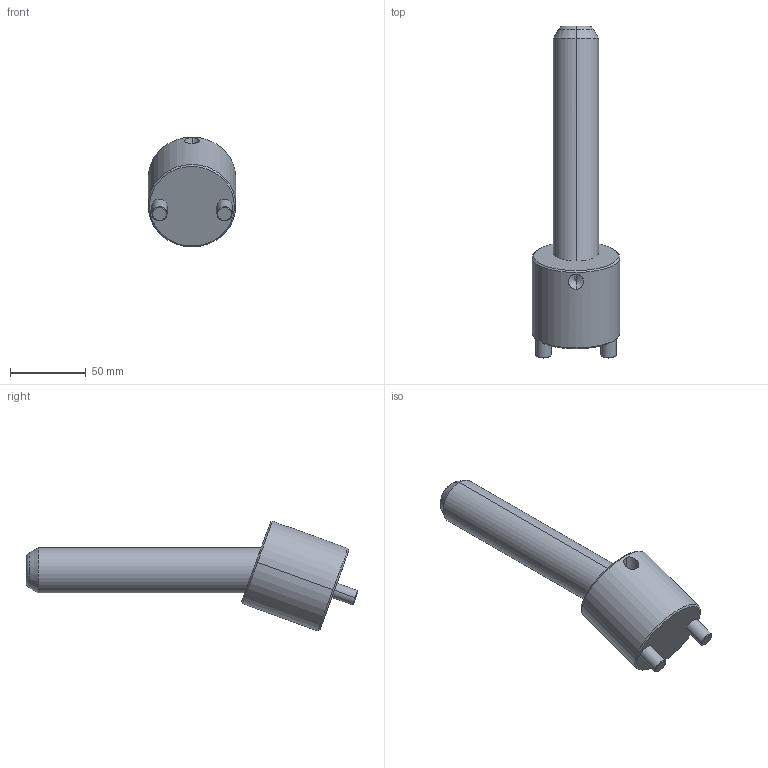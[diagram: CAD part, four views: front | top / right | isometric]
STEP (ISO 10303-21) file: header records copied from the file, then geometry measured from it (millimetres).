
FILE_DESCRIPTION(('CATIA V5 STEP Exchange'),'2;1');
FILE_NAME('C:\Users\Raffaele\Desktop\3D BOLEX\3D FILES CF BOLEX\19-INCLINED ASSEMBLY REF_CI\CI2030150.stp','2019-06-24T06:45:20+00:00',('none'),('none'),'CATIA Version 5 Release 20 GA (IN-10)','CATIA V5 STEP AP203','none');
FILE_SCHEMA(('CONFIG_CONTROL_DESIGN'));
Length unit declared in the file: millimetre
Products named in the file (1): CI2030150
Assembly tree (2 placements, depth 2):
  CI2030150
    #58
    #584
Bounding box: 58 x 219.37 x 72.63 mm (x, y, z)
Volume: 249783.4 mm3; surface area: 40168.2 mm2
Topology: 2 solids, 2 shells, 39 faces, 82 edges, 47 vertices
Faces by surface type: cone 14, cylinder 14, plane 7, torus 4
Entity records: 1554 total; most frequent: CARTESIAN_POINT 691, ORIENTED_EDGE 160, DIRECTION 147, EDGE_CURVE 80, AXIS2_PLACEMENT_3D 74, VERTEX_POINT 47, EDGE_LOOP 43, ADVANCED_FACE 39
